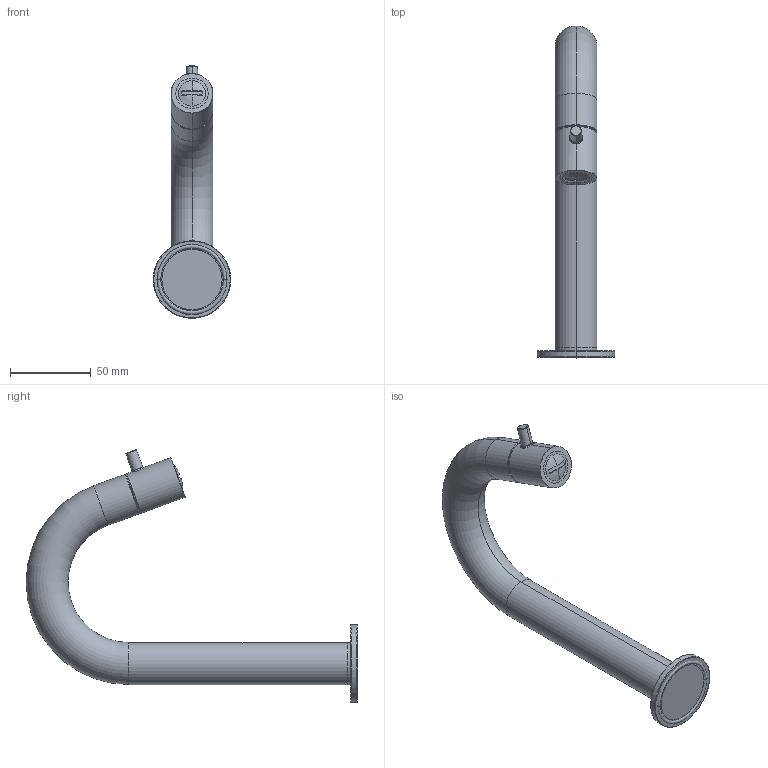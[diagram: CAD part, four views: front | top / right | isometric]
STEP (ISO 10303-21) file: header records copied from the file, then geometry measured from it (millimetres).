
FILE_DESCRIPTION((''),'2;1');
FILE_NAME('48037--00_SUB01_SW0001','2026-10-02T08:39:10',('simi1'),(''),'CREO PARAMETRIC BY PTC INC, 2022244','CREO PARAMETRIC BY PTC INC, 2022244','');
FILE_SCHEMA(('CONFIG_CONTROL_DESIGN'));
Length unit declared in the file: millimetre
Products named in the file (1): 48037--00_SUB01_SW0001
Bounding box: 48 x 205.41 x 156.38 mm (x, y, z)
Surface area: 35841.5 mm2 (no closed solid volume)
Topology: 0 solids, 11 shells, 51 faces, 107 edges, 66 vertices
Faces by surface type: torus 18, cylinder 17, plane 12, bspline 2, sphere 2
Entity records: 1663 total; most frequent: CARTESIAN_POINT 506, DIRECTION 279, ORIENTED_EDGE 190, AXIS2_PLACEMENT_3D 129, EDGE_CURVE 107, CIRCLE 80, VERTEX_POINT 66, EDGE_LOOP 51
